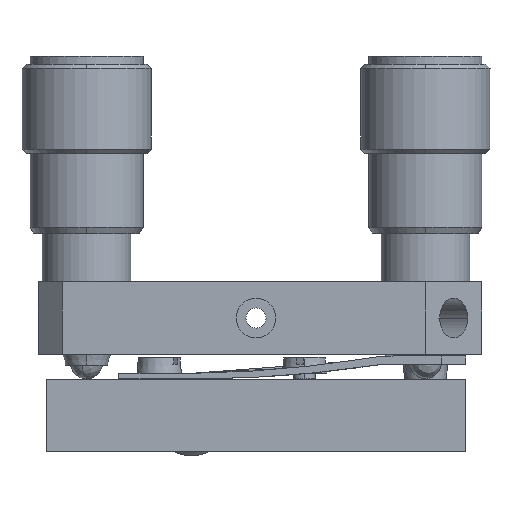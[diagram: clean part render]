
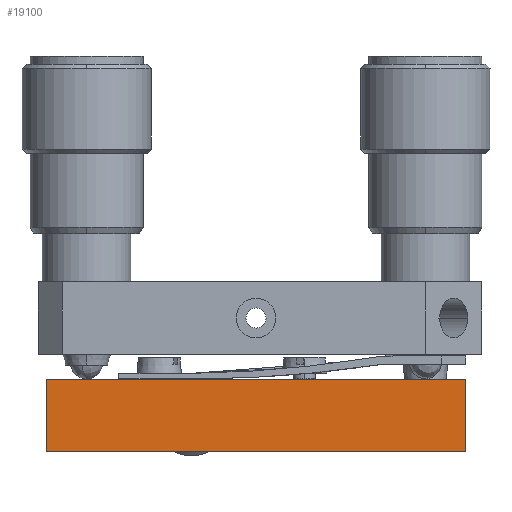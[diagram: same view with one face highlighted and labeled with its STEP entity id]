
A CAD part, left-side view. The second image highlights one B-rep face of the part: STEP entity #19100.
In plain terms, the highlighted planar face has unit normal (-1, 0, 0).
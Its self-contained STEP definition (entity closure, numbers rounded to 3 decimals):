
#6324 = CARTESIAN_POINT ( 'NONE',  ( -52.56, -40.333, -27.31 ) ) ;
#6334 = CARTESIAN_POINT ( 'NONE',  ( -52.56, -40.333, -36.31 ) ) ;
#6392 = DIRECTION ( 'NONE',  ( 0., 0., -1. ) ) ;
#6393 = VECTOR ( 'NONE', #6392, 39.37 ) ;
#6394 = CARTESIAN_POINT ( 'NONE',  ( -52.56, 11.667, -36.31 ) ) ;
#6395 = LINE ( 'NONE', #6394, #6393 ) ;
#6415 = DIRECTION ( 'NONE',  ( 0., -1., 0. ) ) ;
#6416 = VECTOR ( 'NONE', #6415, 39.37 ) ;
#6417 = CARTESIAN_POINT ( 'NONE',  ( -52.56, -40.333, -36.31 ) ) ;
#6418 = LINE ( 'NONE', #6417, #6416 ) ;
#6419 = CARTESIAN_POINT ( 'NONE',  ( -52.56, 11.667, -36.31 ) ) ;
#6420 = DIRECTION ( 'NONE',  ( 0., 0., 1. ) ) ;
#6421 = DIRECTION ( 'NONE',  ( -1., 0., 0. ) ) ;
#6422 = CARTESIAN_POINT ( 'NONE',  ( -52.56, -40.333, -36.31 ) ) ;
#6423 = AXIS2_PLACEMENT_3D ( 'NONE', #6422, #6421, #6420 ) ;
#6424 = PLANE ( 'NONE',  #6423 ) ;
#6425 = FACE_OUTER_BOUND ( 'NONE', #19101, .T. ) ;
#6426 = DIRECTION ( 'NONE',  ( 0., 0., -1. ) ) ;
#6427 = VECTOR ( 'NONE', #6426, 39.37 ) ;
#6428 = CARTESIAN_POINT ( 'NONE',  ( -52.56, -40.333, -36.31 ) ) ;
#6429 = LINE ( 'NONE', #6428, #6427 ) ;
#6492 = CARTESIAN_POINT ( 'NONE',  ( -52.56, 11.667, -27.31 ) ) ;
#6544 = DIRECTION ( 'NONE',  ( 0., 1., 0. ) ) ;
#6545 = VECTOR ( 'NONE', #6544, 39.37 ) ;
#6546 = CARTESIAN_POINT ( 'NONE',  ( -52.56, -14.333, -27.31 ) ) ;
#6547 = LINE ( 'NONE', #6546, #6545 ) ;
#19038 = VERTEX_POINT ( 'NONE', #6334 ) ;
#19045 = VERTEX_POINT ( 'NONE', #6324 ) ;
#19080 = EDGE_CURVE ( 'NONE', #19136, #19102, #6395, .T. ) ;
#19099 = EDGE_CURVE ( 'NONE', #19045, #19038, #6429, .T. ) ;
#19100 = ADVANCED_FACE ( 'NONE', ( #6425 ), #6424, .T. ) ;
#19101 = EDGE_LOOP ( 'NONE', ( #19103, #19105, #19106, #19156 ) ) ;
#19102 = VERTEX_POINT ( 'NONE', #6419 ) ;
#19103 = ORIENTED_EDGE ( 'NONE', *, *, #19104, .T. ) ;
#19104 = EDGE_CURVE ( 'NONE', #19102, #19038, #6418, .T. ) ;
#19105 = ORIENTED_EDGE ( 'NONE', *, *, #19099, .F. ) ;
#19106 = ORIENTED_EDGE ( 'NONE', *, *, #19142, .T. ) ;
#19136 = VERTEX_POINT ( 'NONE', #6492 ) ;
#19142 = EDGE_CURVE ( 'NONE', #19045, #19136, #6547, .T. ) ;
#19156 = ORIENTED_EDGE ( 'NONE', *, *, #19080, .T. ) ;
